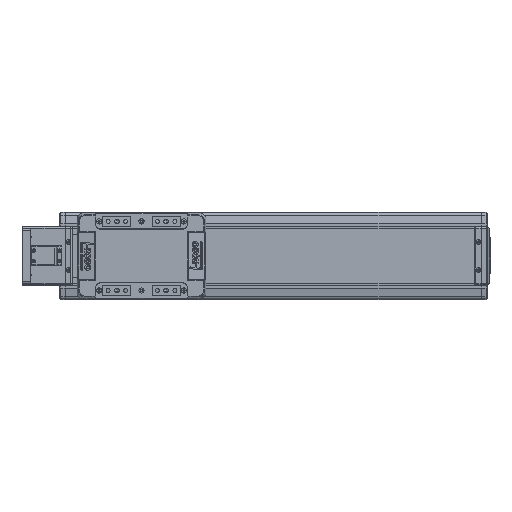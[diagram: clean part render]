
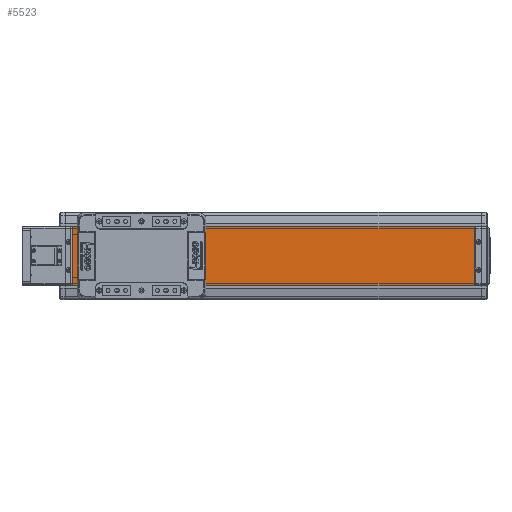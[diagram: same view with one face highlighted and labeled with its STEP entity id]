
A CAD part, top view. The second image highlights one B-rep face of the part: STEP entity #5523.
In plain terms, the highlighted planar face has unit normal (0, 0, 1).
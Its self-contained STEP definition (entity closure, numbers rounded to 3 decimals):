
#5523=ADVANCED_FACE('',(#12597),#12598,.F.);
#12597=FACE_OUTER_BOUND('',#22506,.T.);
#12598=PLANE('',#22507);
#22506=EDGE_LOOP('',(#38563,#38564,#38565,#38566));
#22507=AXIS2_PLACEMENT_3D('',#38567,#38568,#38569);
#38563=ORIENTED_EDGE('',*,*,#57186,.F.);
#38564=ORIENTED_EDGE('',*,*,#59049,.F.);
#38565=ORIENTED_EDGE('',*,*,#60230,.F.);
#38566=ORIENTED_EDGE('',*,*,#59846,.T.);
#38567=CARTESIAN_POINT('',(0.,0.,26.));
#38568=DIRECTION('',(0.,0.,-1.0));
#38569=DIRECTION('',(0.,1.0,0.));
#57186=EDGE_CURVE('',#68962,#68964,#68965,.T.);
#59049=EDGE_CURVE('',#72003,#68962,#72005,.T.);
#59846=EDGE_CURVE('',#73195,#68964,#73196,.T.);
#60230=EDGE_CURVE('',#73195,#72003,#73769,.T.);
#68962=VERTEX_POINT('',#85196);
#68964=VERTEX_POINT('',#85199);
#68965=LINE('',#85200,#85201);
#72003=VERTEX_POINT('',#89392);
#72005=LINE('',#89395,#89396);
#73195=VERTEX_POINT('',#91150);
#73196=LINE('',#91151,#91152);
#73769=LINE('',#91911,#91912);
#85196=CARTESIAN_POINT('',(710.0,50.,26.));
#85199=CARTESIAN_POINT('',(710.0,-50.,26.));
#85200=CARTESIAN_POINT('',(710.0,-50.,26.));
#85201=VECTOR('',#103865,10.0);
#89392=CARTESIAN_POINT('',(0.,50.0,26.));
#89395=CARTESIAN_POINT('',(0.,50.0,26.));
#89396=VECTOR('',#106637,10.0);
#91150=CARTESIAN_POINT('',(0.,-50.,26.));
#91151=CARTESIAN_POINT('',(0.,-50.,26.));
#91152=VECTOR('',#107753,10.0);
#91911=CARTESIAN_POINT('',(0.,-50.,26.));
#91912=VECTOR('',#108313,10.0);
#103865=DIRECTION('',(0.,-1.0,0.));
#106637=DIRECTION('',(1.0,0.,0.));
#107753=DIRECTION('',(1.0,0.,0.));
#108313=DIRECTION('',(0.,1.0,0.));
